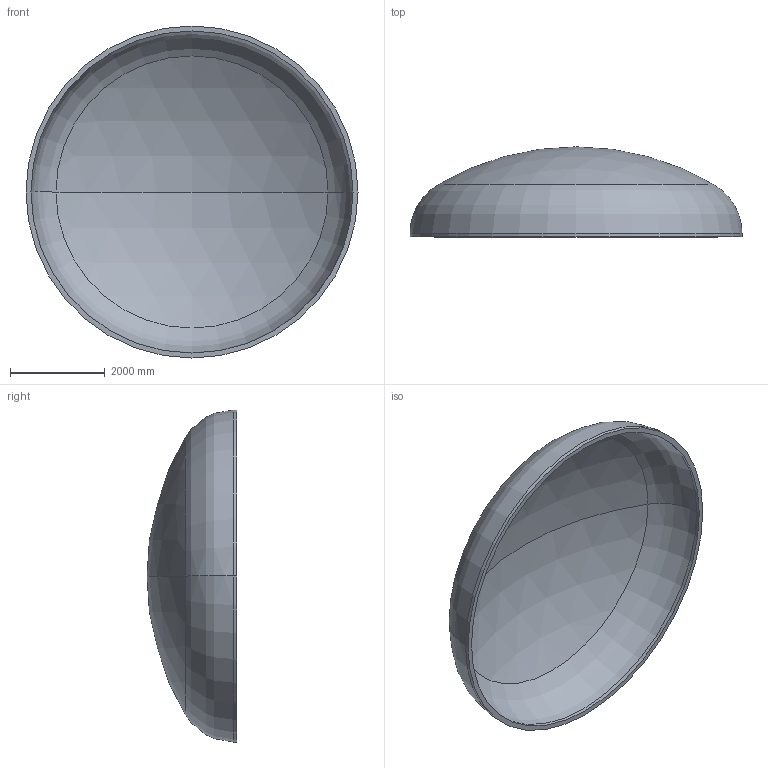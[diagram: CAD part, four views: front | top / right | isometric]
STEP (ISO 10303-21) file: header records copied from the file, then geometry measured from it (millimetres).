
FILE_DESCRIPTION (( 'STEP AP203' ), '1' );
FILE_NAME ('DIN 28013 Korbbogenform_-_Boden DIN 28013 - 7000 x 75 - I - s=104.step', '2016-07-04T10:50:13', ( '' ), ( '' ), 'SwSTEP 2.0', 'SolidWorks 2013', '' );
FILE_SCHEMA (( 'CONFIG_CONTROL_DESIGN' ));
Length unit declared in the file: millimetre
Products named in the file (1): DIN 28013 Korbbogenform_-_Boden DIN 28013 - 7000 x 75 - I - s=104
Bounding box: 7000 x 1897.44 x 7000 mm (x, y, z)
Volume: 5606516067.8 mm3; surface area: 110093328.5 mm2
Topology: 1 solids, 1 shells, 13 faces, 24 edges, 14 vertices
Faces by surface type: torus 4, cylinder 4, sphere 4, plane 1
Entity records: 407 total; most frequent: DIRECTION 72, CARTESIAN_POINT 52, ORIENTED_EDGE 48, AXIS2_PLACEMENT_3D 34, EDGE_CURVE 24, CIRCLE 20, EDGE_LOOP 14, VERTEX_POINT 14
